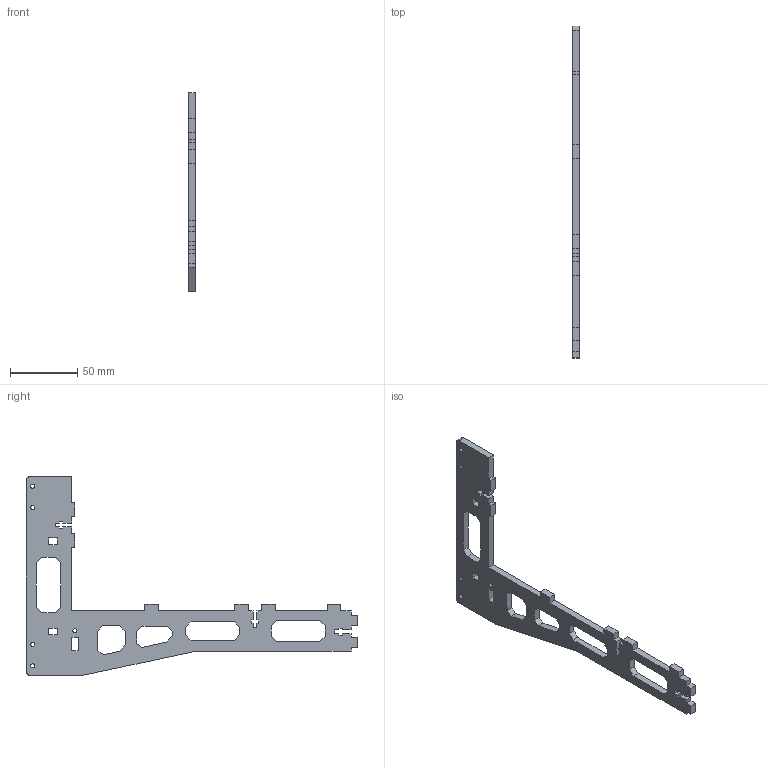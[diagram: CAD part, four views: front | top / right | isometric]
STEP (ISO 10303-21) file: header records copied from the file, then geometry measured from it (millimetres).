
FILE_DESCRIPTION(/* description */ (''),/* implementation_level */ '2;1');
FILE_NAME(/* name */ 'BRAZOP~2',/* time_stamp */ '2019-04-01T21:21:34-03:00',/* author */ (''),/* organization */ (''),/* preprocessor_version */ 'ST-DEVELOPER v16.5',/* originating_system */ '',/* authorisation */ '');
FILE_SCHEMA (('AUTOMOTIVE_DESIGN'));
Length unit declared in the file: millimetre
Products named in the file (1): Document
Bounding box: 5 x 246.25 x 147.62 mm (x, y, z)
Volume: 47820 mm3; surface area: 26609.1 mm2
Topology: 1 solids, 1 shells, 144 faces, 426 edges, 284 vertices
Faces by surface type: plane 132, bspline 12
Entity records: 4337 total; most frequent: CARTESIAN_POINT 1480, ORIENTED_EDGE 852, EDGE_CURVE 426, B_SPLINE_CURVE_WITH_KNOTS 390, VERTEX_POINT 284, EDGE_LOOP 170, ADVANCED_FACE 144, FACE_OUTER_BOUND 144
